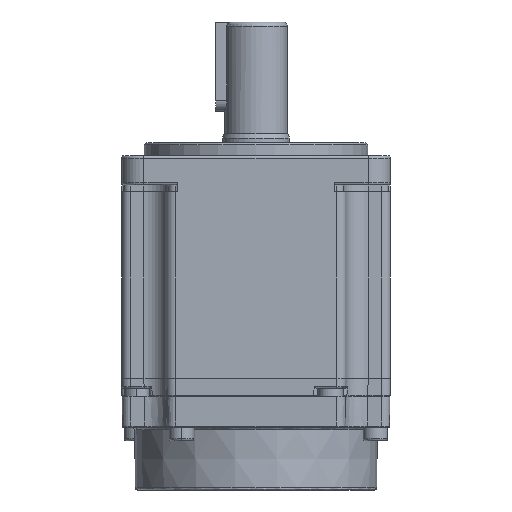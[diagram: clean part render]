
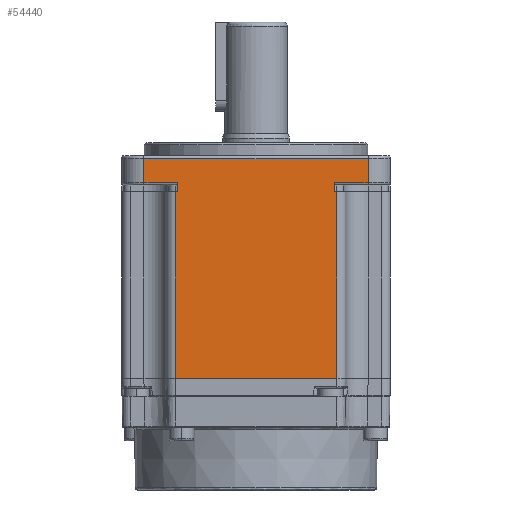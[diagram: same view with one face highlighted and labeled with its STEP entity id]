
A CAD part, front view. The second image highlights one B-rep face of the part: STEP entity #54440.
In plain terms, the highlighted planar face has unit normal (0, -1, 0).
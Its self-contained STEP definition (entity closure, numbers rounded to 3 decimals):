
#783 = CARTESIAN_POINT ( 'NONE',  ( -17.984, -39.646, 85.1 ) ) ;
#1107 = CARTESIAN_POINT ( 'NONE',  ( -18.584, -39.646, 34.9 ) ) ;
#1874 = CARTESIAN_POINT ( 'NONE',  ( -30.584, -39.646, 76.7 ) ) ;
#2001 = ORIENTED_EDGE ( 'NONE', *, *, #23654, .F. ) ;
#2163 = ORIENTED_EDGE ( 'NONE', *, *, #17139, .T. ) ;
#2996 = CARTESIAN_POINT ( 'NONE',  ( -30.584, -39.646, 34.9 ) ) ;
#3378 = LINE ( 'NONE', #5359, #72828 ) ;
#3571 = CARTESIAN_POINT ( 'NONE',  ( -25.584, -39.646, 78.7 ) ) ;
#5359 = CARTESIAN_POINT ( 'NONE',  ( 24.616, -39.646, 85.1 ) ) ;
#6177 = FACE_OUTER_BOUND ( 'NONE', #44138, .T. ) ;
#7291 = VERTEX_POINT ( 'NONE', #29111 ) ;
#8980 = VERTEX_POINT ( 'NONE', #19345 ) ;
#9391 = LINE ( 'NONE', #783, #78739 ) ;
#9576 = VERTEX_POINT ( 'NONE', #3571 ) ;
#11102 = ORIENTED_EDGE ( 'NONE', *, *, #88349, .T. ) ;
#11982 = VECTOR ( 'NONE', #32415, 1000. ) ;
#12276 = LINE ( 'NONE', #54769, #63231 ) ;
#14406 = CARTESIAN_POINT ( 'NONE',  ( 17.616, -39.646, 34.9 ) ) ;
#14532 = DIRECTION ( 'NONE',  ( 0., 0., 1. ) ) ;
#15109 = VERTEX_POINT ( 'NONE', #44912 ) ;
#15812 = LINE ( 'NONE', #1874, #87344 ) ;
#16005 = CARTESIAN_POINT ( 'NONE',  ( 17.016, -39.646, 85.1 ) ) ;
#16958 = LINE ( 'NONE', #16005, #88469 ) ;
#16962 = EDGE_CURVE ( 'NONE', #7291, #62830, #64858, .T. ) ;
#17139 = EDGE_CURVE ( 'NONE', #51802, #9576, #68058, .T. ) ;
#17528 = CARTESIAN_POINT ( 'NONE',  ( -17.984, -39.646, 78.7 ) ) ;
#18054 = CARTESIAN_POINT ( 'NONE',  ( -30.584, -39.646, 85.1 ) ) ;
#19298 = CARTESIAN_POINT ( 'NONE',  ( -25.584, -39.646, 84.1 ) ) ;
#19345 = CARTESIAN_POINT ( 'NONE',  ( 17.016, -39.646, 76.7 ) ) ;
#19673 = ORIENTED_EDGE ( 'NONE', *, *, #30871, .T. ) ;
#21852 = DIRECTION ( 'NONE',  ( 0., 0., -1. ) ) ;
#22460 = EDGE_CURVE ( 'NONE', #9576, #83295, #35625, .T. ) ;
#23654 = EDGE_CURVE ( 'NONE', #35288, #84301, #54966, .T. ) ;
#23895 = VERTEX_POINT ( 'NONE', #34114 ) ;
#24009 = EDGE_CURVE ( 'NONE', #83295, #7291, #9391, .T. ) ;
#24107 = EDGE_CURVE ( 'NONE', #8980, #26690, #16958, .T. ) ;
#24721 = CARTESIAN_POINT ( 'NONE',  ( -17.984, -39.646, 78.7 ) ) ;
#25041 = CARTESIAN_POINT ( 'NONE',  ( 24.616, -39.646, 78.7 ) ) ;
#26690 = VERTEX_POINT ( 'NONE', #29909 ) ;
#28227 = CARTESIAN_POINT ( 'NONE',  ( -30.584, -39.646, 76.7 ) ) ;
#29111 = CARTESIAN_POINT ( 'NONE',  ( -17.984, -39.646, 76.7 ) ) ;
#29248 = VERTEX_POINT ( 'NONE', #72278 ) ;
#29909 = CARTESIAN_POINT ( 'NONE',  ( 17.016, -39.646, 78.7 ) ) ;
#30083 = DIRECTION ( 'NONE',  ( 0., 0., 1. ) ) ;
#30156 = ORIENTED_EDGE ( 'NONE', *, *, #66619, .T. ) ;
#30871 = EDGE_CURVE ( 'NONE', #15109, #51802, #67261, .T. ) ;
#32415 = DIRECTION ( 'NONE',  ( -1., 0., 0. ) ) ;
#34114 = CARTESIAN_POINT ( 'NONE',  ( 17.616, -39.646, 76.7 ) ) ;
#35244 = DIRECTION ( 'NONE',  ( -1., 0., 0. ) ) ;
#35288 = VERTEX_POINT ( 'NONE', #14406 ) ;
#35388 = ORIENTED_EDGE ( 'NONE', *, *, #35747, .T. ) ;
#35625 = LINE ( 'NONE', #24721, #89162 ) ;
#35747 = EDGE_CURVE ( 'NONE', #35288, #23895, #82939, .T. ) ;
#36605 = VECTOR ( 'NONE', #38087, 1000. ) ;
#38087 = DIRECTION ( 'NONE',  ( -1., 0., 0. ) ) ;
#38710 = ORIENTED_EDGE ( 'NONE', *, *, #61964, .T. ) ;
#39119 = DIRECTION ( 'NONE',  ( 0., 1., 0. ) ) ;
#40709 = ORIENTED_EDGE ( 'NONE', *, *, #22460, .T. ) ;
#42696 = ORIENTED_EDGE ( 'NONE', *, *, #24107, .T. ) ;
#43902 = DIRECTION ( 'NONE',  ( -1., 0., 0. ) ) ;
#44138 = EDGE_LOOP ( 'NONE', ( #2001, #35388, #30156, #42696, #38710, #11102, #19673, #2163, #40709, #82487, #83634, #56670 ) ) ;
#44912 = CARTESIAN_POINT ( 'NONE',  ( 24.616, -39.646, 84.1 ) ) ;
#49196 = CARTESIAN_POINT ( 'NONE',  ( 17.616, -39.646, 85.1 ) ) ;
#51802 = VERTEX_POINT ( 'NONE', #19298 ) ;
#52674 = PLANE ( 'NONE',  #77824 ) ;
#54440 = ADVANCED_FACE ( 'NONE', ( #6177 ), #52674, .F. ) ;
#54769 = CARTESIAN_POINT ( 'NONE',  ( -18.584, -39.646, 85.1 ) ) ;
#54966 = LINE ( 'NONE', #2996, #36605 ) ;
#55075 = DIRECTION ( 'NONE',  ( 0., 0., -1. ) ) ;
#56670 = ORIENTED_EDGE ( 'NONE', *, *, #89611, .T. ) ;
#58728 = DIRECTION ( 'NONE',  ( 0., 0., -1. ) ) ;
#61964 = EDGE_CURVE ( 'NONE', #26690, #29248, #89577, .T. ) ;
#62830 = VERTEX_POINT ( 'NONE', #65271 ) ;
#63231 = VECTOR ( 'NONE', #55075, 1000. ) ;
#64858 = LINE ( 'NONE', #28227, #83232 ) ;
#65271 = CARTESIAN_POINT ( 'NONE',  ( -18.584, -39.646, 76.7 ) ) ;
#65910 = VECTOR ( 'NONE', #58728, 1000. ) ;
#66619 = EDGE_CURVE ( 'NONE', #23895, #8980, #15812, .T. ) ;
#67261 = LINE ( 'NONE', #73758, #11982 ) ;
#67784 = DIRECTION ( 'NONE',  ( 0., 0., 1. ) ) ;
#68058 = LINE ( 'NONE', #86182, #65910 ) ;
#71208 = VECTOR ( 'NONE', #73427, 1000. ) ;
#72278 = CARTESIAN_POINT ( 'NONE',  ( 24.616, -39.646, 78.7 ) ) ;
#72828 = VECTOR ( 'NONE', #67784, 1000. ) ;
#73105 = DIRECTION ( 'NONE',  ( 1., 0., 0. ) ) ;
#73427 = DIRECTION ( 'NONE',  ( 1., 0., 0. ) ) ;
#73758 = CARTESIAN_POINT ( 'NONE',  ( -30.584, -39.646, 84.1 ) ) ;
#77824 = AXIS2_PLACEMENT_3D ( 'NONE', #18054, #39119, #87383 ) ;
#78739 = VECTOR ( 'NONE', #21852, 1000. ) ;
#82487 = ORIENTED_EDGE ( 'NONE', *, *, #24009, .T. ) ;
#82939 = LINE ( 'NONE', #49196, #87290 ) ;
#83232 = VECTOR ( 'NONE', #35244, 1000. ) ;
#83295 = VERTEX_POINT ( 'NONE', #17528 ) ;
#83634 = ORIENTED_EDGE ( 'NONE', *, *, #16962, .T. ) ;
#84301 = VERTEX_POINT ( 'NONE', #1107 ) ;
#86182 = CARTESIAN_POINT ( 'NONE',  ( -25.584, -39.646, 85.1 ) ) ;
#87290 = VECTOR ( 'NONE', #14532, 1000. ) ;
#87344 = VECTOR ( 'NONE', #43902, 1000. ) ;
#87383 = DIRECTION ( 'NONE',  ( -1., 0., 0. ) ) ;
#88349 = EDGE_CURVE ( 'NONE', #29248, #15109, #3378, .T. ) ;
#88469 = VECTOR ( 'NONE', #30083, 1000. ) ;
#89162 = VECTOR ( 'NONE', #73105, 1000. ) ;
#89577 = LINE ( 'NONE', #25041, #71208 ) ;
#89611 = EDGE_CURVE ( 'NONE', #62830, #84301, #12276, .T. ) ;
